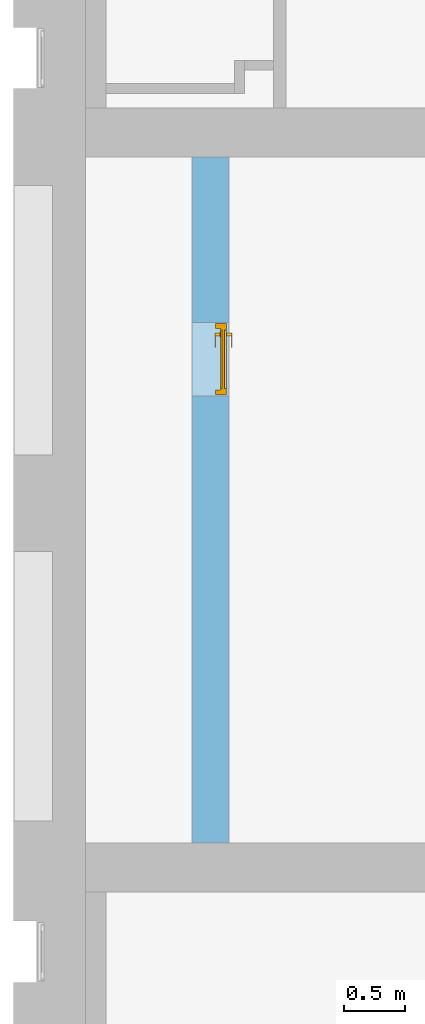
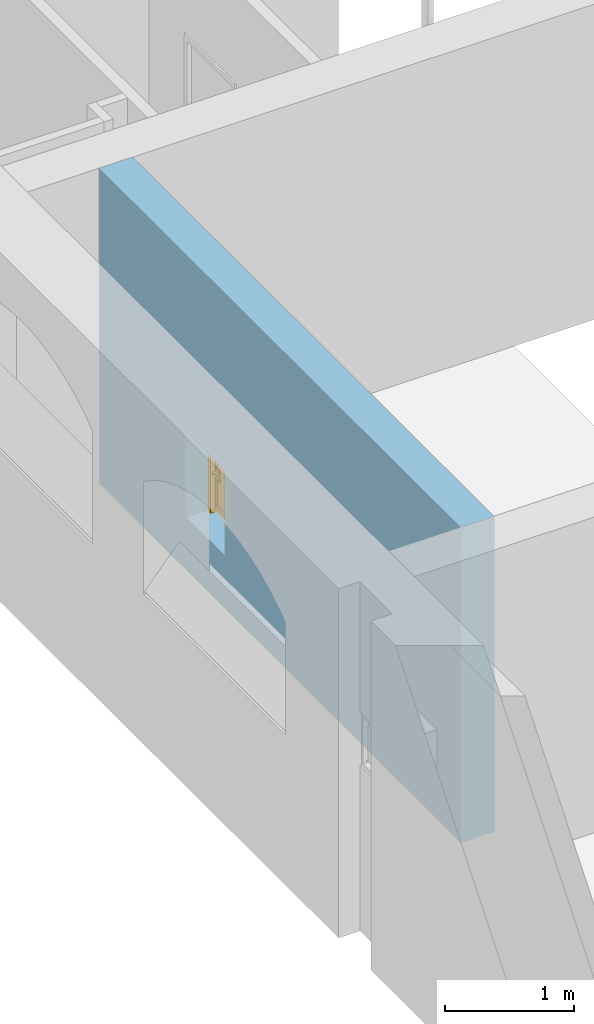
# One storey, part 11 of 11: 1 door, 1 opening, plus 1 element that does not belong to this part.
"""IFC2X3 building model written with IfcOpenShell, lengths in millimetres."""

from ifc_helpers import new_model, entity, si_unit, converted_unit, derived_unit, direction, frame, frame_2d, origin, place, context, subcontext, project, spatial, polyline, rectangle, extrude, clip, bounded_halfspace, faceted_brep, source, transform, mapped, material, material_list, layer, layer_set, layer_usage, type_object, type_shapes, element, fill, save


model = new_model("IFC2X3")

# Units and contexts
model_context = context("Model", 3, precision=0.01, world=origin(), true_north=direction((6.123031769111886e-17, 1.0)))
body_context = subcontext(model_context, "Body", "Model", "MODEL_VIEW")
ifc_project = project(units=[si_unit("LENGTHUNIT", "METRE", prefix="MILLI"), si_unit("AREAUNIT", "SQUARE_METRE"), si_unit("VOLUMEUNIT", "CUBIC_METRE"), converted_unit("PLANEANGLEUNIT", "DEGREE", entity("IfcPlaneAngleMeasure", 0.017453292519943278), si_unit("PLANEANGLEUNIT", "RADIAN"), dimensions=[0, 0, 0, 0, 0, 0, 0]), si_unit("MASSUNIT", "GRAM", prefix="KILO"), derived_unit("MASSDENSITYUNIT", [(si_unit("MASSUNIT", "GRAM", prefix="KILO"), 1), (si_unit("LENGTHUNIT", "METRE"), -3)]), derived_unit("IONCONCENTRATIONUNIT", [(si_unit("MASSUNIT", "GRAM", prefix="KILO"), 1), (si_unit("LENGTHUNIT", "METRE"), -3)]), derived_unit("MOMENTOFINERTIAUNIT", [(si_unit("LENGTHUNIT", "METRE"), 4)]), si_unit("TIMEUNIT", "SECOND"), si_unit("FREQUENCYUNIT", "HERTZ"), si_unit("THERMODYNAMICTEMPERATUREUNIT", "DEGREE_CELSIUS"), derived_unit("THERMALTRANSMITTANCEUNIT", [(si_unit("MASSUNIT", "GRAM", prefix="KILO"), 1), (si_unit("THERMODYNAMICTEMPERATUREUNIT", "KELVIN"), -1), (si_unit("TIMEUNIT", "SECOND"), -3)]), derived_unit("THERMALCONDUCTANCEUNIT", [(si_unit("MASSUNIT", "GRAM", prefix="KILO"), 1), (si_unit("THERMODYNAMICTEMPERATUREUNIT", "KELVIN"), -1), (si_unit("TIMEUNIT", "SECOND"), -3), (si_unit("LENGTHUNIT", "METRE"), 1)]), derived_unit("VOLUMETRICFLOWRATEUNIT", [(si_unit("LENGTHUNIT", "METRE", prefix="DECI"), 3), (si_unit("TIMEUNIT", "SECOND"), -1)]), derived_unit("MASSFLOWRATEUNIT", [(si_unit("MASSUNIT", "GRAM", prefix="KILO"), 1), (si_unit("TIMEUNIT", "SECOND"), -1)]), derived_unit("ROTATIONALFREQUENCYUNIT", [(si_unit("TIMEUNIT", "SECOND"), -1)]), si_unit("ELECTRICCURRENTUNIT", "AMPERE"), si_unit("ELECTRICVOLTAGEUNIT", "VOLT"), si_unit("POWERUNIT", "WATT"), si_unit("FORCEUNIT", "NEWTON", prefix="KILO"), si_unit("ILLUMINANCEUNIT", "LUX"), si_unit("LUMINOUSFLUXUNIT", "LUMEN"), si_unit("LUMINOUSINTENSITYUNIT", "CANDELA"), si_unit("ENERGYUNIT", "JOULE"), derived_unit("USERDEFINED", [(si_unit("MASSUNIT", "GRAM", prefix="KILO"), -1), (si_unit("LENGTHUNIT", "METRE"), -2), (si_unit("TIMEUNIT", "SECOND"), 3), (si_unit("LUMINOUSFLUXUNIT", "LUMEN"), 1)]), derived_unit("USERDEFINED", [(si_unit("MASSUNIT", "GRAM", prefix="KILO"), 1), (si_unit("TIMEUNIT", "SECOND"), -3), (si_unit("LENGTHUNIT", "METRE"), 3), (si_unit("ELECTRICCURRENTUNIT", "AMPERE"), -2)]), derived_unit("SOUNDPOWERUNIT", [(si_unit("MASSUNIT", "GRAM", prefix="KILO"), 1), (si_unit("TIMEUNIT", "SECOND"), -3), (si_unit("LENGTHUNIT", "METRE"), 2)]), derived_unit("SOUNDPRESSUREUNIT", [(si_unit("MASSUNIT", "GRAM", prefix="KILO"), 1), (si_unit("LENGTHUNIT", "METRE"), -1), (si_unit("TIMEUNIT", "SECOND"), -2)]), derived_unit("LINEARVELOCITYUNIT", [(si_unit("LENGTHUNIT", "METRE"), 1), (si_unit("TIMEUNIT", "SECOND"), -1)]), si_unit("PRESSUREUNIT", "PASCAL"), derived_unit("USERDEFINED", [(si_unit("MASSUNIT", "GRAM", prefix="KILO"), 1), (si_unit("LENGTHUNIT", "METRE"), -2), (si_unit("TIMEUNIT", "SECOND"), -2)]), derived_unit("LINEARFORCEUNIT", [(si_unit("MASSUNIT", "GRAM", prefix="KILO"), 1), (si_unit("TIMEUNIT", "SECOND"), -2)]), derived_unit("PLANARFORCEUNIT", [(si_unit("MASSUNIT", "GRAM", prefix="KILO"), 1), (si_unit("LENGTHUNIT", "METRE"), -1), (si_unit("TIMEUNIT", "SECOND"), -2)]), derived_unit("SPECIFICHEATCAPACITYUNIT", [(si_unit("THERMODYNAMICTEMPERATUREUNIT", "KELVIN"), -1), (si_unit("LENGTHUNIT", "METRE"), 2), (si_unit("TIMEUNIT", "SECOND"), -2)]), derived_unit("HEATFLUXDENSITYUNIT", [(si_unit("MASSUNIT", "GRAM", prefix="KILO"), 1), (si_unit("TIMEUNIT", "SECOND"), -3)]), derived_unit("HEATINGVALUEUNIT", [(si_unit("LENGTHUNIT", "METRE"), 2), (si_unit("TIMEUNIT", "SECOND"), -2)]), derived_unit("VAPORPERMEABILITYUNIT", [(si_unit("LENGTHUNIT", "METRE"), -1), (si_unit("TIMEUNIT", "SECOND"), 1)]), derived_unit("DYNAMICVISCOSITYUNIT", [(si_unit("MASSUNIT", "GRAM", prefix="KILO"), 1), (si_unit("TIMEUNIT", "SECOND"), -1), (si_unit("LENGTHUNIT", "METRE"), -1)]), derived_unit("THERMALEXPANSIONCOEFFICIENTUNIT", [(si_unit("THERMODYNAMICTEMPERATUREUNIT", "KELVIN"), -1)]), derived_unit("MODULUSOFELASTICITYUNIT", [(si_unit("MASSUNIT", "GRAM", prefix="KILO"), 1), (si_unit("LENGTHUNIT", "METRE"), -1), (si_unit("TIMEUNIT", "SECOND"), -2)]), derived_unit("ISOTHERMALMOISTURECAPACITYUNIT", [(si_unit("MASSUNIT", "GRAM", prefix="KILO"), -1), (si_unit("LENGTHUNIT", "METRE"), 3)]), derived_unit("MOISTUREDIFFUSIVITYUNIT", [(si_unit("TIMEUNIT", "SECOND"), -1), (si_unit("LENGTHUNIT", "METRE"), 2)]), derived_unit("MASSPERLENGTHUNIT", [(si_unit("MASSUNIT", "GRAM", prefix="KILO"), 1), (si_unit("LENGTHUNIT", "METRE"), -1)]), derived_unit("THERMALRESISTANCEUNIT", [(si_unit("MASSUNIT", "GRAM", prefix="KILO"), -1), (si_unit("TIMEUNIT", "SECOND"), 3), (si_unit("THERMODYNAMICTEMPERATUREUNIT", "KELVIN"), 1)]), derived_unit("ACCELERATIONUNIT", [(si_unit("LENGTHUNIT", "METRE"), 1), (si_unit("TIMEUNIT", "SECOND"), -2)]), derived_unit("ANGULARVELOCITYUNIT", [(si_unit("TIMEUNIT", "SECOND"), -1), (si_unit("PLANEANGLEUNIT", "RADIAN"), 1)]), derived_unit("LINEARSTIFFNESSUNIT", [(si_unit("MASSUNIT", "GRAM", prefix="KILO"), 1), (si_unit("TIMEUNIT", "SECOND"), -2)]), derived_unit("WARPINGCONSTANTUNIT", [(si_unit("LENGTHUNIT", "METRE"), 6)]), derived_unit("LINEARMOMENTUNIT", [(si_unit("MASSUNIT", "GRAM", prefix="KILO"), 1), (si_unit("LENGTHUNIT", "METRE"), 1), (si_unit("TIMEUNIT", "SECOND"), -2)]), derived_unit("TORQUEUNIT", [(si_unit("MASSUNIT", "GRAM", prefix="KILO"), 1), (si_unit("LENGTHUNIT", "METRE"), 2), (si_unit("TIMEUNIT", "SECOND"), -2)])], contexts=[model_context])

# Site, building, storey
site_placement = place(None, origin())
site = spatial("IfcSite", under=ifc_project, at=site_placement, Name="Default", CompositionType="ELEMENT")
building_placement = place(site_placement, origin())
building = spatial("IfcBuilding", under=site, at=building_placement, Name="Eesti Rahvusraamatukogu hoone renoveerimise projekteerimistööd", CompositionType="ELEMENT")
storey_placement = place(building_placement, frame((0.0, 0.0, -1650.0)))
storey = spatial("IfcBuildingStorey", under=building, at=storey_placement, Name="-1. korrus", CompositionType="ELEMENT", Elevation=-1650.0000000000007)

# Wall, opening, door
ifc_material_1 = material(Name="EST. Soojustus. EPS")
ifc_layer_1 = layer(ifc_material_1, 150.0)
ifc_material_2 = material(Name="EST. Müüritis. Väikeplokk. Poorbetoonplokk")
ifc_layer_2 = layer(ifc_material_2, 150.0)
ifc_layer_set = layer_set([ifc_layer_1, ifc_layer_2], Name="Basic Wall:VS-13.1 - 300 poorbetoon + EPS")
ifc_layer_usage = layer_usage(ifc_layer_set, "AXIS2", "POSITIVE", -149.99999999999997)
wall_type = type_object("IfcWallType", Name="Basic Wall:VS-13.1 - 300 poorbetoon + EPS", PredefinedType="STANDARD", material=ifc_layer_set)
wall_placement = place(storey_placement, frame((-35170.0, 30230.0, 0.0), z_axis=(0.0, 0.0, 1.0), x_axis=(0.0, -1.0, 0.0)))
wall = element("IfcWallStandardCase", 1, at=wall_placement, inside=storey, type_object=wall_type, material=ifc_layer_usage, Name="Basic Wall:VS-13.1 - 300 poorbetoon + EPS", ObjectType="Basic Wall:VS-13.1 - 300 poorbetoon + EPS", context=body_context, shape_type="Clipping", body=[
    clip(extrude(rectangle(XDim=5599.999999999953, YDim=300.0000000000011, at=frame_2d((2799.9999999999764, 0.0), x_axis=(-1.0, 0.0))), origin(), (0.0, 0.0, 1.0), 2980.0000000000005), bounded_halfspace(frame((0.0, -150.0, 2980.0)), False, frame((0.0, -150.0, 2980.0)), polyline([(0.0, 0.0), (5600.0, 0.0), (5600.0, 300.0), (0.0, 300.0), (0.0, 0.0)]))),
])
opening_placement = place(wall_placement, frame((1350.0, -150.0, 500.0)))
opening = element("IfcOpeningElement", 2, at=opening_placement, cuts=wall, Name="SMA_D01, 1-poolne:HLU-03 - 600x800mm:1", ObjectType="Opening", context=body_context, shape_type="SweptSolid", body=[
    extrude(rectangle(XDim=799.9999999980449, YDim=600.0, at=frame_2d((399.99999999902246, 300.0), x_axis=(1.0, 0.0))), frame((0.0, 0.0, 0.0), z_axis=(0.0, 1.0, 0.0), x_axis=(0.0, 0.0, 1.0)), (0.0, 0.0, 1.0), 299.99999999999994),
])
ifc_material_3 = material(Name="EST. Metall. Alumiinium. Värvitud.")
ifc_material_4 = material(Name="EST. Klaas. 3x. Default")
ifc_material_list = material_list([ifc_material_3, ifc_material_4])
door_style = type_object("IfcDoorStyle", Name="SMA_D01, 1-poolne:HLU-03 - 600x800mm", ConstructionType="NOTDEFINED", OperationType="NOTDEFINED", ParameterTakesPrecedence=False, Sizeable=False, material=ifc_material_list)
shared_shape = source(origin(), body_context, "Body", "Brep", [
    faceted_brep([(110.0, 190.0, 412.5), (110.0, 228.0, 412.5), (85.0, 228.0, 412.5), (85.0, 185.0, 412.5), (205.0, 185.0, 412.5), (205.0, 190.0, 412.5), (110.0, 190.0, 387.5), (205.0, 190.0, 387.5), (205.0, 185.0, 387.5), (85.0, 185.0, 387.5), (85.0, 228.0, 387.5), (110.0, 228.0, 387.5)], [[[0, 1, 2, 3, 4, 5]], [[6, 7, 8, 9, 10, 11]], [[1, 0, 6, 11]], [[2, 1, 11, 10]], [[3, 2, 10, 9]], [[4, 3, 9, 8]], [[5, 4, 8, 7]], [[0, 5, 7, 6]]]),
    faceted_brep([(122.4999999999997, 228.0, 437.50000000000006), (122.4999999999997, 230.0, 437.50000000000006), (72.49999999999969, 230.0, 437.50000000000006), (72.49999999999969, 228.0, 437.50000000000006), (122.4999999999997, 228.0, 317.50000000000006), (72.49999999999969, 228.0, 317.50000000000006), (72.49999999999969, 230.0, 317.50000000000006), (122.4999999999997, 230.0, 317.50000000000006)], [[[0, 1, 2, 3]], [[4, 5, 6, 7]], [[1, 0, 4, 7]], [[2, 1, 7, 6]], [[3, 2, 6, 5]], [[0, 3, 5, 4]]]),
    faceted_brep([(110.0, 320.0, 412.5), (205.0, 320.0, 412.5), (205.0, 325.0, 412.5), (85.0, 325.0, 412.5), (85.0, 282.0, 412.5), (110.0, 282.0, 412.5), (110.0, 320.0, 387.5), (110.0, 282.0, 387.5), (85.0, 282.0, 387.5), (85.0, 325.0, 387.5), (205.0, 325.0, 387.5), (205.0, 320.0, 387.5)], [[[0, 1, 2, 3, 4, 5]], [[6, 7, 8, 9, 10, 11]], [[5, 7, 6, 0]], [[4, 8, 7, 5]], [[3, 9, 8, 4]], [[2, 10, 9, 3]], [[1, 11, 10, 2]], [[0, 6, 11, 1]]]),
    faceted_brep([(122.4999999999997, 282.0, 437.50000000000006), (72.49999999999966, 282.0, 437.50000000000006), (72.49999999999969, 280.0, 437.50000000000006), (122.4999999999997, 280.0, 437.50000000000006), (122.4999999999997, 282.0, 317.50000000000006), (122.4999999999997, 280.0, 317.50000000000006), (72.49999999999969, 280.0, 317.50000000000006), (72.49999999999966, 282.0, 317.50000000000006)], [[[0, 1, 2, 3]], [[4, 5, 6, 7]], [[3, 5, 4, 0]], [[2, 6, 5, 3]], [[1, 7, 6, 2]], [[0, 4, 7, 1]]]),
    faceted_brep([(590.0, 190.0, 0.0), (550.0, 190.0, 0.0), (550.0, 230.0, 0.0), (565.0, 230.0, 0.0), (565.0, 280.0, 0.0), (590.0, 280.0, 0.0), (590.0, 190.0, 789.999999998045), (10.0, 190.0, 789.999999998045), (10.0, 190.0, 0.0), (50.0, 190.0, 0.0), (50.0, 190.0, 749.9999999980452), (550.0, 190.0, 749.999999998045), (550.0, 230.0, 749.999999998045), (50.0, 230.0, 749.9999999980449), (50.0, 230.0, 0.0), (35.0, 230.0, 0.0), (35.0, 230.0, 764.999999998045), (565.0, 230.0, 764.999999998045), (565.0, 280.0, 764.999999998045), (35.0, 280.0, 764.9999999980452), (35.0, 280.0, 0.0), (10.0, 280.0, 0.0), (10.0, 280.0, 789.9999999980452), (590.0, 280.0, 789.999999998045)], [[[0, 1, 2, 3, 4, 5]], [[1, 0, 6, 7, 8, 9, 10, 11]], [[2, 1, 11, 12]], [[3, 2, 12, 13, 14, 15, 16, 17]], [[4, 3, 17, 18]], [[5, 4, 18, 19, 20, 21, 22, 23]], [[0, 5, 23, 6]], [[11, 10, 13, 12]], [[17, 16, 19, 18]], [[7, 6, 23, 22]], [[9, 8, 21, 20, 15, 14]], [[10, 9, 14, 13]], [[16, 15, 20, 19]], [[8, 7, 22, 21]]]),
    faceted_brep([(540.0, 245.0, 60.0), (540.0, 245.0, 739.9999999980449), (60.0, 245.0, 739.9999999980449), (60.0, 245.0, 60.0), (540.0, 265.0, 60.0), (60.0, 265.0, 60.0), (60.0, 265.0, 739.9999999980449), (540.0, 265.0, 739.9999999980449)], [[[0, 1, 2, 3]], [[4, 5, 6, 7]], [[1, 0, 4, 7]], [[2, 1, 7, 6]], [[3, 2, 6, 5]], [[0, 3, 5, 4]]]),
    faceted_brep([(565.0, 230.0, 20.0), (565.0, 230.0, 764.999999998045), (35.0, 230.0, 764.999999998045), (35.0, 230.0, 20.0), (60.0, 230.0, 60.0), (60.0, 230.0, 739.9999999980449), (540.0, 230.0, 739.9999999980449), (540.0, 230.0, 60.0), (565.0, 280.0, 20.0), (35.0, 280.0, 20.0), (35.0, 280.0, 764.999999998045), (565.0, 280.0, 764.999999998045), (60.0, 280.0, 739.9999999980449), (60.0, 280.0, 60.0), (540.0, 280.0, 60.0), (540.0, 280.0, 739.9999999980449)], [[[0, 1, 2, 3], [4, 5, 6, 7]], [[8, 9, 10, 11], [12, 13, 14, 15]], [[1, 0, 8, 11]], [[2, 1, 11, 10]], [[3, 2, 10, 9]], [[0, 3, 9, 8]], [[12, 5, 4, 13]], [[13, 4, 7, 14]], [[14, 7, 6, 15]], [[5, 12, 15, 6]]]),
])
type_shapes(door_style, [shared_shape])
door_placement = place(opening_placement, origin())
door = element("IfcDoor", 3, at=door_placement, inside=storey, type_object=door_style, material=ifc_material_list, Name="SMA_D01, 1-poolne:HLU-03 - 600x800mm", ObjectType="SMA_D01, 1-poolne:HLU-03 - 600x800mm", OverallHeight=799.9999999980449, OverallWidth=600.0000000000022, context=body_context, shape_type="MappedRepresentation", body=[
    mapped(shared_shape, transform((0.0, 0.0, 0.0), scale=1.0)),
])
fill(opening, door)

save(model, "model.ifc")
